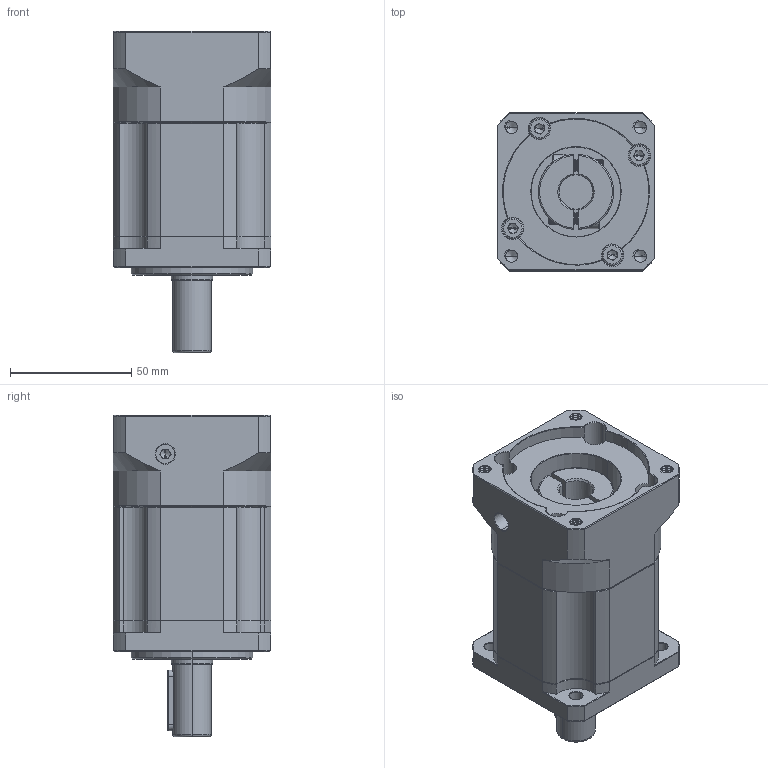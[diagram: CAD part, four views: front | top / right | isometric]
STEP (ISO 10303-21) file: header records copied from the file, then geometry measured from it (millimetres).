
FILE_DESCRIPTION (( 'STEP AP214' ), '1' );
FILE_NAME ('ZB60-D16-L2-14-60-75-M6.STEP', '2022-04-17T07:40:23', ( '' ), ( 'Microsoft' ), 'SwSTEP 2.0', 'SolidWorks 2016', '' );
FILE_SCHEMA (( 'AUTOMOTIVE_DESIGN' ));
Length unit declared in the file: millimetre
Products named in the file (1): ZB60-D16-L2-14-60-75-M6
Bounding box: 65 x 65 x 132.5 mm (x, y, z)
Volume: 326017.1 mm3; surface area: 59102 mm2
Topology: 6 solids, 6 shells, 1890 faces, 5024 edges, 3213 vertices
Faces by surface type: plane 879, cylinder 392, bspline 299, cone 286, torus 34
Entity records: 101705 total; most frequent: CARTESIAN_POINT 36314, ORIENTED_EDGE 9988, DIRECTION 8203, EDGE_CURVE 4994, VERTEX_POINT 3213, VECTOR 3047, LINE 3047, AXIS2_PLACEMENT_3D 2578
